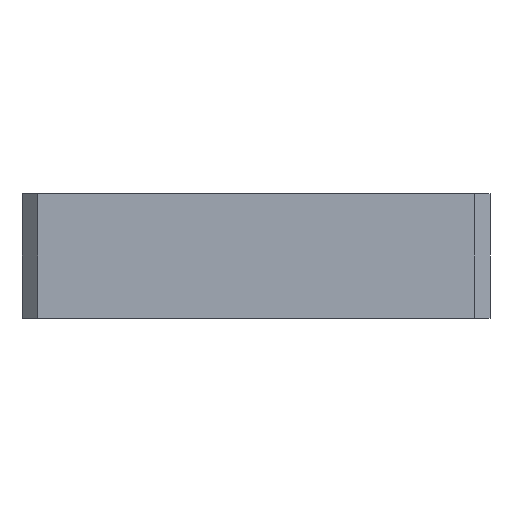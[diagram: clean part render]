
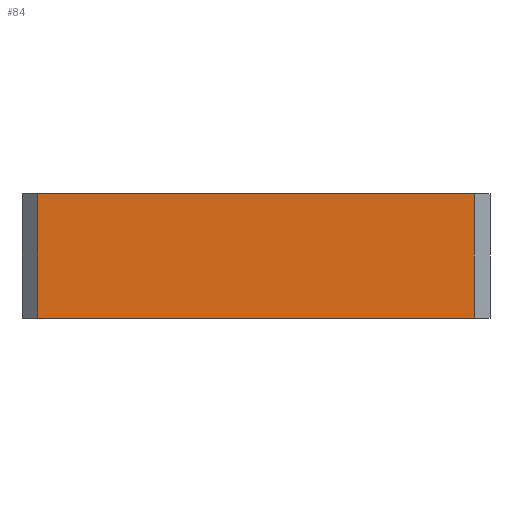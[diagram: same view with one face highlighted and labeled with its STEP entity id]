
A CAD part, left-side view. The second image highlights one B-rep face of the part: STEP entity #84.
In plain terms, the highlighted planar face has unit normal (-1, 0, 0).
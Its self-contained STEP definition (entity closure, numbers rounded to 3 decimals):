
#84 = ADVANCED_FACE( '', ( #153 ), #154, .T. );
#153 = FACE_OUTER_BOUND( '', #262, .T. );
#154 = PLANE( '', #263 );
#262 = EDGE_LOOP( '', ( #418, #419, #420, #421 ) );
#263 = AXIS2_PLACEMENT_3D( '', #422, #423, #424 );
#418 = ORIENTED_EDGE( '', *, *, #536, .T. );
#419 = ORIENTED_EDGE( '', *, *, #582, .T. );
#420 = ORIENTED_EDGE( '', *, *, #565, .T. );
#421 = ORIENTED_EDGE( '', *, *, #583, .T. );
#422 = CARTESIAN_POINT( '', ( -15., 0., -4. ) );
#423 = DIRECTION( '', ( -1., 0., 0. ) );
#424 = DIRECTION( '', ( 0., 0., 1. ) );
#536 = EDGE_CURVE( '', #597, #595, #598, .T. );
#565 = EDGE_CURVE( '', #651, #652, #653, .T. );
#582 = EDGE_CURVE( '', #595, #651, #683, .T. );
#583 = EDGE_CURVE( '', #652, #597, #684, .T. );
#595 = VERTEX_POINT( '', #704 );
#597 = VERTEX_POINT( '', #707 );
#598 = LINE( '', #708, #709 );
#651 = VERTEX_POINT( '', #774 );
#652 = VERTEX_POINT( '', #775 );
#653 = LINE( '', #776, #777 );
#683 = LINE( '', #812, #813 );
#684 = LINE( '', #814, #815 );
#704 = CARTESIAN_POINT( '', ( -15., 14., 4. ) );
#707 = CARTESIAN_POINT( '', ( -15., -14., 4. ) );
#708 = CARTESIAN_POINT( '', ( -15., 0., 4. ) );
#709 = VECTOR( '', #834, 1000. );
#774 = CARTESIAN_POINT( '', ( -15., 14., -4. ) );
#775 = CARTESIAN_POINT( '', ( -15., -14., -4. ) );
#776 = CARTESIAN_POINT( '', ( -15., 0., -4. ) );
#777 = VECTOR( '', #895, 1000. );
#812 = CARTESIAN_POINT( '', ( -15., 14., -4. ) );
#813 = VECTOR( '', #934, 1000. );
#814 = CARTESIAN_POINT( '', ( -15., -14., -4. ) );
#815 = VECTOR( '', #935, 1000. );
#834 = DIRECTION( '', ( 0., 1., 0. ) );
#895 = DIRECTION( '', ( 0., -1., 0. ) );
#934 = DIRECTION( '', ( 0., 0., -1. ) );
#935 = DIRECTION( '', ( 0., 0., 1. ) );
